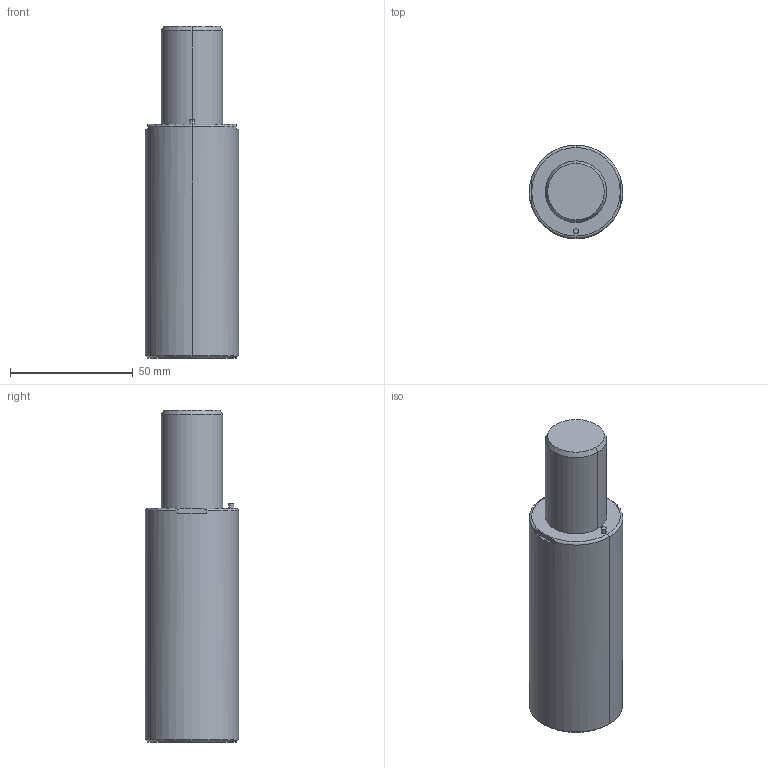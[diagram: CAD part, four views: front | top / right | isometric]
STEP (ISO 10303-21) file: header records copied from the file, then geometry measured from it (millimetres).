
FILE_DESCRIPTION(/* description */ (''),/* implementation_level */ '2;1');
FILE_NAME(/* name */ '3d_gsx38-38_03980_r00.stp',/* time_stamp */ '2011-01-10T14:15:13+09:00',/* author */ ('MISUMI'),/* organization */ (''),/* preprocessor_version */ 'ST-DEVELOPER v11',/* originating_system */ 'UGS - NX 5.0',/* authorisation */ '');
FILE_SCHEMA (('CONFIG_CONTROL_DESIGN'));
Length unit declared in the file: millimetre
Products named in the file (1): 3d_gsx38-38_03980_r00
Bounding box: 38 x 38 x 135 mm (x, y, z)
Volume: 125312.8 mm3; surface area: 17871.7 mm2
Topology: 1 solids, 1 shells, 59 faces, 128 edges, 76 vertices
Faces by surface type: cylinder 28, plane 15, cone 12, torus 4
Entity records: 1718 total; most frequent: CARTESIAN_POINT 328, DIRECTION 306, ORIENTED_EDGE 240, AXIS2_PLACEMENT_3D 130, EDGE_CURVE 120, VERTEX_POINT 76, EDGE_LOOP 72, CIRCLE 70
